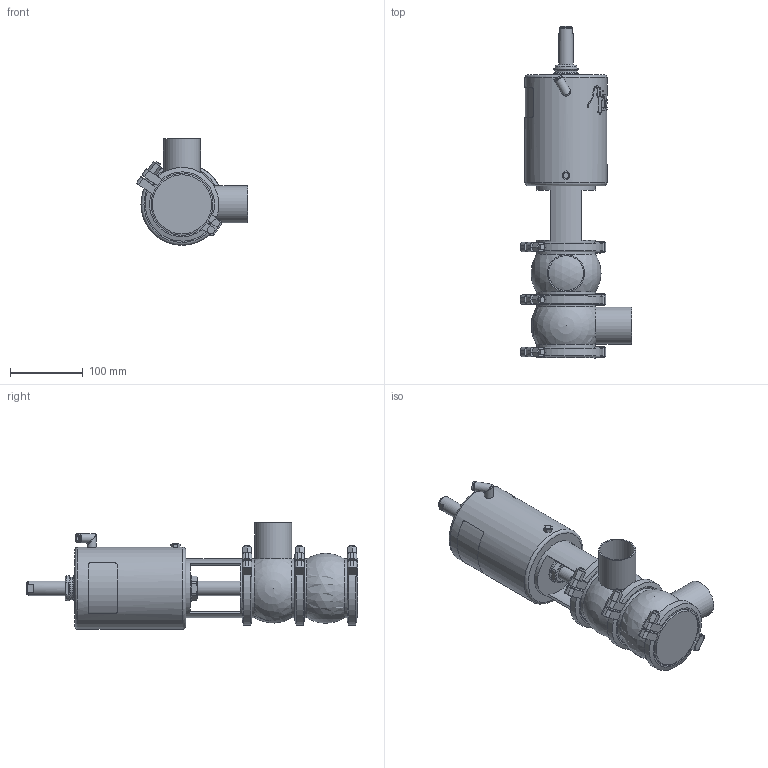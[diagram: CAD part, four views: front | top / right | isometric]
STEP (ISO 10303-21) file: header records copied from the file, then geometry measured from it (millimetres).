
FILE_DESCRIPTION (( 'STEP AP214' ), '1' );
FILE_NAME ('INNOVA M D W OD 2 T2 AS NC_10.241.16.0010.STEP', '2024-08-07T07:57:36', ( '' ), ( '' ), 'SwSTEP 2.0', 'SolidWorks 2023', '' );
FILE_SCHEMA (( 'AUTOMOTIVE_DESIGN' ));
Length unit declared in the file: millimetre
Products named in the file (6): 10.241.15.0001_DIN 050; INNOVA M D W OD 2 T2 AS NC_10.241.16.0010; 10.240.15.0001_DN 050; 10.240.15.0006_OD 2"; 10.240.15.0014_T2 AS P180; 10.240.15.0010_DN 050
Assembly tree (8 placements, depth 2):
  INNOVA M D W OD 2 T2 AS NC_10.241.16.0010
    10.240.15.0006_OD 2"  x2
    10.240.15.0010_DN 050
    10.240.15.0014_T2 AS P180
    10.240.15.0001_DN 050  x3
    10.241.15.0001_DIN 050
Bounding box: 152.59 x 455.27 x 146.25 mm (x, y, z)
Volume: 2738370.7 mm3; surface area: 293989.4 mm2
Topology: 9 solids, 9 shells, 459 faces, 1211 edges, 789 vertices
Faces by surface type: plane 225, cylinder 110, bspline 80, cone 36, sphere 4, torus 4
Full cylindrical faces by diameter (mm): 6.15 x1, 8 x7, 8.5 x1, 10.5 x1, 12.5 x3, 16 x1, 20 x2, 31 x1, 34.5 x2, 36.5 x1, 47.5 x2, 50.8 x2, 81 x6, 93 x6, 112.5 x1
Entity records: 20371 total; most frequent: CARTESIAN_POINT 11262, ORIENTED_EDGE 1592, DIRECTION 1205, EDGE_CURVE 796, VERTEX_POINT 547, AXIS2_PLACEMENT_3D 458, EDGE_LOOP 399, FACE_OUTER_BOUND 360
